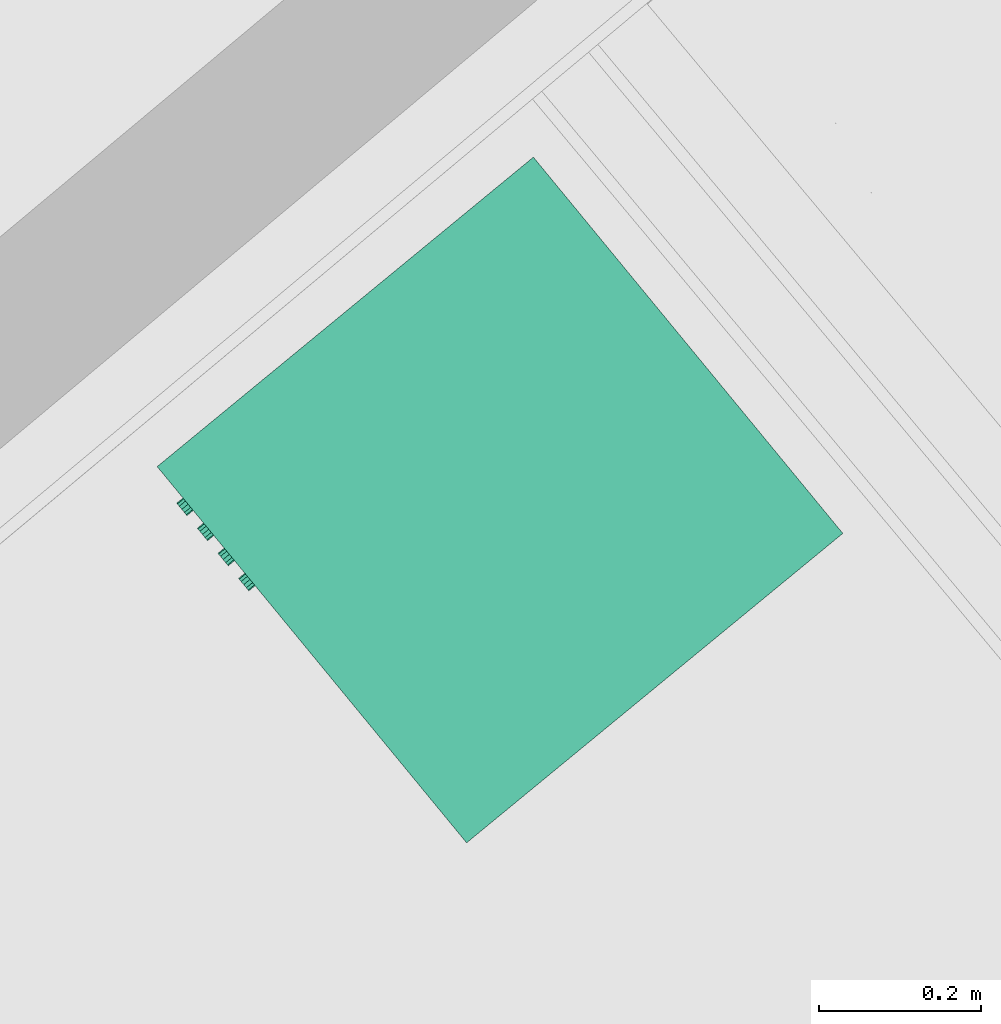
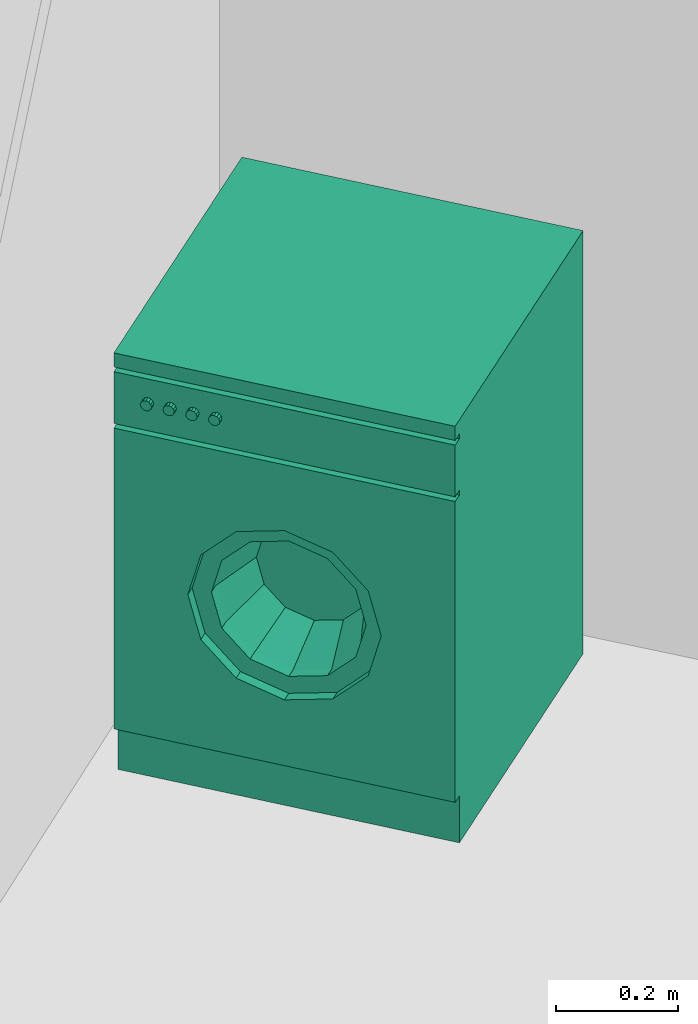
# One storey, part 67 of 75: 1 sanitary terminal.
"""IFC4 building model written with IfcOpenShell, lengths in metres."""

from ifc_helpers import new_model, entity, si_unit, converted_unit, derived_unit, direction, frame, origin_with_axes, place, context, subcontext, project, spatial, polygons, source, transform, mapped, type_object, element, save


model = new_model("IFC4")

# Units and contexts
model_context = context("Model", 3, precision=1e-05, world=origin_with_axes(), true_north=direction((0.0, 1.0)))
body_context = subcontext(model_context, "Body", "Model", "MODEL_VIEW")
ifc_project = project(units=[si_unit("LENGTHUNIT", "METRE"), si_unit("AREAUNIT", "SQUARE_METRE"), si_unit("VOLUMEUNIT", "CUBIC_METRE"), converted_unit("PLANEANGLEUNIT", "DEGREE", entity("IfcPlaneAngleMeasure", 0.0174532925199), si_unit("PLANEANGLEUNIT", "RADIAN"), dimensions=[0, 0, 0, 0, 0, 0, 0]), converted_unit("TIMEUNIT", "Year", entity("IfcTimeMeasure", 31556926.0), si_unit("TIMEUNIT", "SECOND"), dimensions=[0, 0, 1, 0, 0, 0, 0]), si_unit("MASSUNIT", "GRAM", prefix="KILO"), si_unit("THERMODYNAMICTEMPERATUREUNIT", "DEGREE_CELSIUS"), si_unit("LUMINOUSINTENSITYUNIT", "LUMEN"), si_unit("ENERGYUNIT", "JOULE", prefix="MEGA"), derived_unit("THERMALCONDUCTANCEUNIT", [(si_unit("POWERUNIT", "WATT"), 1), (si_unit("LENGTHUNIT", "METRE"), -1), (si_unit("THERMODYNAMICTEMPERATUREUNIT", "KELVIN"), -1)]), derived_unit("SPECIFICHEATCAPACITYUNIT", [(si_unit("ENERGYUNIT", "JOULE"), 1), (si_unit("MASSUNIT", "GRAM", prefix="KILO"), -1), (si_unit("THERMODYNAMICTEMPERATUREUNIT", "KELVIN"), -1)]), derived_unit("MASSDENSITYUNIT", [(si_unit("MASSUNIT", "GRAM", prefix="KILO"), 1), (si_unit("VOLUMEUNIT", "CUBIC_METRE"), -1)])], contexts=[model_context])

# Site, building, storey, space
site_placement = place(None, frame((-0.00153261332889, -0.00661245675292, 0.0), z_axis=(0.0, 0.0, 1.0), x_axis=(1.0, 0.0, 0.0)))
site = spatial("IfcSite", under=ifc_project, at=site_placement, Name="Gelände", CompositionType="ELEMENT")
building_placement = place(site_placement, origin_with_axes())
building = spatial("IfcBuilding", under=site, at=building_placement, Name="Gebäude", CompositionType="ELEMENT")
storey_placement = place(building_placement, frame((0.0, 0.0, -0.22), z_axis=(0.0, 0.0, 1.0), x_axis=(1.0, 0.0, 0.0)))
storey = spatial("IfcBuildingStorey", under=building, at=storey_placement, Name="EG", CompositionType="ELEMENT", Elevation=-0.22)
space_placement = place(storey_placement, frame((-2.15759184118, 20.2157118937, 0.22), z_axis=(0.0, 0.0, 1.0), x_axis=(-0.767062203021, -0.641572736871, 0.0)))
space = spatial("IfcSpace", under=storey, at=space_placement, CompositionType="ELEMENT", PredefinedType="NOTDEFINED")

# Sanitary terminal
sanitary_terminal_type = type_object("IfcSanitaryTerminalType", Name="Waschmaschine 01 26", PredefinedType="NOTDEFINED")
shared_shape = source(origin_with_axes(), body_context, "Body", "Tessellation", [
    polygons([(-0.3, -0.58, 0.0944444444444), (0.3, -0.58, 0.0944444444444), (0.3, -0.6, 0.0944444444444), (-0.3, -0.6, 0.0944444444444), (-0.3, -0.58, 0.698888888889), (0.3, -0.58, 0.698888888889), (0.17, -0.58, 0.396666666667), (0.147224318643, -0.58, 0.481666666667), (0.085, -0.58, 0.54389098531), (0.0, -0.58, 0.566666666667), (-0.085, -0.58, 0.54389098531), (-0.147224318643, -0.58, 0.481666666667), (-0.17, -0.58, 0.396666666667), (-0.147224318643, -0.58, 0.311666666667), (-0.085, -0.58, 0.249442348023), (0.0, -0.58, 0.226666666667), (0.085, -0.58, 0.249442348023), (0.147224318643, -0.58, 0.311666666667), (0.3, -0.6, 0.698888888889), (-0.3, -0.6, 0.698888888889), (0.17, -0.6, 0.396666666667), (0.147224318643, -0.6, 0.311666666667), (0.085, -0.6, 0.249442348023), (0.0, -0.6, 0.226666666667), (-0.085, -0.6, 0.249442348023), (-0.147224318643, -0.6, 0.311666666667), (-0.17, -0.6, 0.396666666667), (-0.147224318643, -0.6, 0.481666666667), (-0.085, -0.6, 0.54389098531), (0.0, -0.6, 0.566666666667), (0.085, -0.6, 0.54389098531), (0.147224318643, -0.6, 0.481666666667)], [[[1, 2, 3, 4]], [[1, 5, 6, 2], [7, 8, 9, 10, 11, 12, 13, 14, 15, 16, 17, 18]], [[2, 6, 19, 3]], [[4, 3, 19, 20], [21, 22, 23, 24, 25, 26, 27, 28, 29, 30, 31, 32]], [[5, 1, 4, 20]], [[6, 5, 20, 19]], [[8, 7, 21, 32]], [[9, 8, 32, 31]], [[10, 9, 31, 30]], [[11, 10, 30, 29]], [[12, 11, 29, 28]], [[13, 12, 28, 27]], [[14, 13, 27, 26]], [[15, 14, 26, 25]], [[16, 15, 25, 24]], [[17, 16, 24, 23]], [[18, 17, 23, 22]], [[7, 18, 22, 21]]], closed=True),
    polygons([(0.17, -0.56, 0.396666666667), (0.147224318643, -0.56, 0.481666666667), (0.147224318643, -0.58, 0.481666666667), (0.17, -0.58, 0.396666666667), (0.147224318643, -0.56, 0.311666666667), (0.085, -0.56, 0.249442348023), (0.0, -0.56, 0.226666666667), (-0.085, -0.56, 0.249442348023), (-0.147224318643, -0.56, 0.311666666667), (-0.17, -0.56, 0.396666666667), (-0.147224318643, -0.56, 0.481666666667), (-0.085, -0.56, 0.54389098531), (0.0, -0.56, 0.566666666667), (0.085, -0.56, 0.54389098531), (0.136, -0.56, 0.396666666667), (0.117779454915, -0.56, 0.464666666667), (0.068, -0.56, 0.514446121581), (0.0, -0.56, 0.532666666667), (-0.068, -0.56, 0.514446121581), (-0.117779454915, -0.56, 0.464666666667), (-0.136, -0.56, 0.396666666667), (-0.117779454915, -0.56, 0.328666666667), (-0.068, -0.56, 0.278887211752), (0.0, -0.56, 0.260666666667), (0.068, -0.56, 0.278887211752), (0.117779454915, -0.56, 0.328666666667), (0.085, -0.58, 0.54389098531), (0.0, -0.58, 0.566666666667), (-0.085, -0.58, 0.54389098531), (-0.147224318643, -0.58, 0.481666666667), (-0.17, -0.58, 0.396666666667), (-0.147224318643, -0.58, 0.311666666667), (-0.085, -0.58, 0.249442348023), (0.0, -0.58, 0.226666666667), (0.085, -0.58, 0.249442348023), (0.147224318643, -0.58, 0.311666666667), (0.136, -0.58, 0.396666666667), (0.117779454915, -0.58, 0.328666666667), (0.068, -0.58, 0.278887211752), (0.0, -0.58, 0.260666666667), (-0.068, -0.58, 0.278887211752), (-0.117779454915, -0.58, 0.328666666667), (-0.136, -0.58, 0.396666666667), (-0.117779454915, -0.58, 0.464666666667), (-0.068, -0.58, 0.514446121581), (0.0, -0.58, 0.532666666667), (0.068, -0.58, 0.514446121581), (0.117779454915, -0.58, 0.464666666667)], [[[1, 2, 3, 4]], [[1, 5, 6, 7, 8, 9, 10, 11, 12, 13, 14, 2], [15, 16, 17, 18, 19, 20, 21, 22, 23, 24, 25, 26]], [[2, 14, 27, 3]], [[4, 3, 27, 28, 29, 30, 31, 32, 33, 34, 35, 36], [37, 38, 39, 40, 41, 42, 43, 44, 45, 46, 47, 48]], [[5, 1, 4, 36]], [[6, 5, 36, 35]], [[7, 6, 35, 34]], [[8, 7, 34, 33]], [[9, 8, 33, 32]], [[10, 9, 32, 31]], [[11, 10, 31, 30]], [[12, 11, 30, 29]], [[13, 12, 29, 28]], [[14, 13, 28, 27]], [[16, 15, 37, 48]], [[17, 16, 48, 47]], [[18, 17, 47, 46]], [[19, 18, 46, 45]], [[20, 19, 45, 44]], [[21, 20, 44, 43]], [[22, 21, 43, 42]], [[23, 22, 42, 41]], [[24, 23, 41, 40]], [[25, 24, 40, 39]], [[26, 25, 39, 38]], [[15, 26, 38, 37]]], closed=True),
    polygons([(-0.068, -0.56, 0.514446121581), (0.0, -0.56, 0.532666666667), (0.0, -0.46, 0.498666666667), (-0.051, -0.46, 0.485001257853), (0.068, -0.56, 0.514446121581), (0.051, -0.46, 0.485001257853), (0.088334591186, -0.46, 0.447666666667), (0.102, -0.46, 0.396666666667), (0.088334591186, -0.46, 0.345666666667), (0.051, -0.46, 0.308332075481), (0.0, -0.46, 0.294666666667), (-0.051, -0.46, 0.308332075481), (-0.088334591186, -0.46, 0.345666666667), (-0.102, -0.46, 0.396666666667), (-0.088334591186, -0.46, 0.447666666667), (-0.117779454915, -0.56, 0.464666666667), (0.117779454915, -0.56, 0.464666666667), (0.136, -0.56, 0.396666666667), (0.117779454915, -0.56, 0.328666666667), (0.068, -0.56, 0.278887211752), (0.0, -0.56, 0.260666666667), (-0.068, -0.56, 0.278887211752), (-0.117779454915, -0.56, 0.328666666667), (-0.136, -0.56, 0.396666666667)], [[[1, 2, 3, 4]], [[2, 5, 6, 3]], [[3, 6, 7, 8, 9, 10, 11, 12, 13, 14, 15, 4]], [[16, 1, 4, 15]], [[5, 17, 7, 6]], [[17, 18, 8, 7]], [[18, 19, 9, 8]], [[19, 20, 10, 9]], [[20, 21, 11, 10]], [[21, 22, 12, 11]], [[22, 23, 13, 12]], [[23, 24, 14, 13]], [[24, 16, 15, 14]]], closed=False),
    polygons([(-0.3, -0.58, 0.0944444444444), (-0.3, -0.58, 0.821666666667), (-0.3, 0.0, 0.821666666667), (-0.3, 0.0, 0.0944444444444)], [[[1, 2, 3, 4]]], closed=False),
    polygons([(0.3, -0.58, 0.0944444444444), (0.3, -0.58, 0.821666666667), (0.3, 0.0, 0.821666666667), (0.3, 0.0, 0.0944444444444)], [[[1, 2, 3, 4]]], closed=False),
    polygons([(-0.3, 0.0, 0.0944444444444), (-0.3, 0.0, 0.821666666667), (0.3, 0.0, 0.821666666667), (0.3, 0.0, 0.0944444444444)], [[[1, 2, 3, 4]]], closed=False),
    polygons([(-0.3, -0.58, 0.0), (0.3, -0.58, 0.0), (0.3, -0.58, 0.0944444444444), (-0.3, -0.58, 0.0944444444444), (-0.3, 0.0, 0.0), (0.3, 0.0, 0.0), (0.3, 0.0, 0.0944444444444), (-0.3, 0.0, 0.0944444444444)], [[[1, 2, 3, 4]], [[1, 5, 6, 2]], [[2, 6, 7, 3]], [[4, 3, 7, 8]], [[5, 1, 4, 8]], [[6, 5, 8, 7]]], closed=True),
    polygons([(-0.3, -0.58, 0.708333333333), (0.3, -0.58, 0.708333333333), (0.3, -0.6, 0.708333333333), (-0.3, -0.6, 0.708333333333), (-0.3, -0.58, 0.812222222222), (0.3, -0.58, 0.812222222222), (0.3, -0.6, 0.812222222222), (-0.3, -0.6, 0.812222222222)], [[[1, 2, 3, 4]], [[1, 5, 6, 2]], [[2, 6, 7, 3]], [[4, 3, 7, 8]], [[5, 1, 4, 8]], [[6, 5, 8, 7]]], closed=True),
    polygons([(-0.3, -0.58, 0.698888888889), (-0.3, -0.58, 0.821666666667), (0.3, -0.58, 0.821666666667), (0.3, -0.58, 0.698888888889)], [[[1, 2, 3, 4]]], closed=False),
    polygons([(-0.3, -0.6, 0.821666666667), (0.3, -0.6, 0.821666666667), (0.3, -0.6, 0.85), (-0.3, -0.6, 0.85), (-0.3, 0.0, 0.821666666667), (0.3, 0.0, 0.821666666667), (0.3, 0.0, 0.85), (-0.3, 0.0, 0.85)], [[[1, 2, 3, 4]], [[1, 5, 6, 2]], [[2, 6, 7, 3]], [[4, 3, 7, 8]], [[5, 1, 4, 8]], [[6, 5, 8, 7]]], closed=True),
    polygons([(-0.231339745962, -0.6, 0.76), (-0.235, -0.6, 0.756339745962), (-0.24, -0.6, 0.755), (-0.245, -0.6, 0.756339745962), (-0.248660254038, -0.6, 0.76), (-0.25, -0.6, 0.765), (-0.248660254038, -0.6, 0.77), (-0.245, -0.6, 0.773660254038), (-0.24, -0.6, 0.775), (-0.235, -0.6, 0.773660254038), (-0.231339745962, -0.6, 0.77), (-0.23, -0.6, 0.765), (-0.231339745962, -0.61, 0.76), (-0.235, -0.61, 0.756339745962), (-0.24, -0.61, 0.755), (-0.245, -0.61, 0.756339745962), (-0.248660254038, -0.61, 0.76), (-0.25, -0.61, 0.765), (-0.248660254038, -0.61, 0.77), (-0.245, -0.61, 0.773660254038), (-0.24, -0.61, 0.775), (-0.235, -0.61, 0.773660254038), (-0.231339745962, -0.61, 0.77), (-0.23, -0.61, 0.765)], [[[1, 2, 3, 4, 5, 6, 7, 8, 9, 10, 11, 12]], [[2, 1, 13, 14]], [[3, 2, 14, 15]], [[4, 3, 15, 16]], [[5, 4, 16, 17]], [[6, 5, 17, 18]], [[7, 6, 18, 19]], [[8, 7, 19, 20]], [[9, 8, 20, 21]], [[10, 9, 21, 22]], [[11, 10, 22, 23]], [[12, 11, 23, 24]], [[1, 12, 24, 13]], [[13, 24, 23, 22, 21, 20, 19, 18, 17, 16, 15, 14]]], closed=True),
    polygons([(-0.191339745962, -0.6, 0.76), (-0.195, -0.6, 0.756339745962), (-0.2, -0.6, 0.755), (-0.205, -0.6, 0.756339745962), (-0.208660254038, -0.6, 0.76), (-0.21, -0.6, 0.765), (-0.208660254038, -0.6, 0.77), (-0.205, -0.6, 0.773660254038), (-0.2, -0.6, 0.775), (-0.195, -0.6, 0.773660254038), (-0.191339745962, -0.6, 0.77), (-0.19, -0.6, 0.765), (-0.191339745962, -0.61, 0.76), (-0.195, -0.61, 0.756339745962), (-0.2, -0.61, 0.755), (-0.205, -0.61, 0.756339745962), (-0.208660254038, -0.61, 0.76), (-0.21, -0.61, 0.765), (-0.208660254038, -0.61, 0.77), (-0.205, -0.61, 0.773660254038), (-0.2, -0.61, 0.775), (-0.195, -0.61, 0.773660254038), (-0.191339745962, -0.61, 0.77), (-0.19, -0.61, 0.765)], [[[1, 2, 3, 4, 5, 6, 7, 8, 9, 10, 11, 12]], [[2, 1, 13, 14]], [[3, 2, 14, 15]], [[4, 3, 15, 16]], [[5, 4, 16, 17]], [[6, 5, 17, 18]], [[7, 6, 18, 19]], [[8, 7, 19, 20]], [[9, 8, 20, 21]], [[10, 9, 21, 22]], [[11, 10, 22, 23]], [[12, 11, 23, 24]], [[1, 12, 24, 13]], [[13, 24, 23, 22, 21, 20, 19, 18, 17, 16, 15, 14]]], closed=True),
    polygons([(-0.151339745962, -0.6, 0.76), (-0.155, -0.6, 0.756339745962), (-0.16, -0.6, 0.755), (-0.165, -0.6, 0.756339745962), (-0.168660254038, -0.6, 0.76), (-0.17, -0.6, 0.765), (-0.168660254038, -0.6, 0.77), (-0.165, -0.6, 0.773660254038), (-0.16, -0.6, 0.775), (-0.155, -0.6, 0.773660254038), (-0.151339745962, -0.6, 0.77), (-0.15, -0.6, 0.765), (-0.151339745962, -0.61, 0.76), (-0.155, -0.61, 0.756339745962), (-0.16, -0.61, 0.755), (-0.165, -0.61, 0.756339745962), (-0.168660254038, -0.61, 0.76), (-0.17, -0.61, 0.765), (-0.168660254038, -0.61, 0.77), (-0.165, -0.61, 0.773660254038), (-0.16, -0.61, 0.775), (-0.155, -0.61, 0.773660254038), (-0.151339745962, -0.61, 0.77), (-0.15, -0.61, 0.765)], [[[1, 2, 3, 4, 5, 6, 7, 8, 9, 10, 11, 12]], [[2, 1, 13, 14]], [[3, 2, 14, 15]], [[4, 3, 15, 16]], [[5, 4, 16, 17]], [[6, 5, 17, 18]], [[7, 6, 18, 19]], [[8, 7, 19, 20]], [[9, 8, 20, 21]], [[10, 9, 21, 22]], [[11, 10, 22, 23]], [[12, 11, 23, 24]], [[1, 12, 24, 13]], [[13, 24, 23, 22, 21, 20, 19, 18, 17, 16, 15, 14]]], closed=True),
    polygons([(-0.111339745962, -0.6, 0.76), (-0.115, -0.6, 0.756339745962), (-0.12, -0.6, 0.755), (-0.125, -0.6, 0.756339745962), (-0.128660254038, -0.6, 0.76), (-0.13, -0.6, 0.765), (-0.128660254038, -0.6, 0.77), (-0.125, -0.6, 0.773660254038), (-0.12, -0.6, 0.775), (-0.115, -0.6, 0.773660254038), (-0.111339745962, -0.6, 0.77), (-0.11, -0.6, 0.765), (-0.111339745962, -0.61, 0.76), (-0.115, -0.61, 0.756339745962), (-0.12, -0.61, 0.755), (-0.125, -0.61, 0.756339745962), (-0.128660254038, -0.61, 0.76), (-0.13, -0.61, 0.765), (-0.128660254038, -0.61, 0.77), (-0.125, -0.61, 0.773660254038), (-0.12, -0.61, 0.775), (-0.115, -0.61, 0.773660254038), (-0.111339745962, -0.61, 0.77), (-0.11, -0.61, 0.765)], [[[1, 2, 3, 4, 5, 6, 7, 8, 9, 10, 11, 12]], [[2, 1, 13, 14]], [[3, 2, 14, 15]], [[4, 3, 15, 16]], [[5, 4, 16, 17]], [[6, 5, 17, 18]], [[7, 6, 18, 19]], [[8, 7, 19, 20]], [[9, 8, 20, 21]], [[10, 9, 21, 22]], [[11, 10, 22, 23]], [[12, 11, 23, 24]], [[1, 12, 24, 13]], [[13, 24, 23, 22, 21, 20, 19, 18, 17, 16, 15, 14]]], closed=True),
])
sanitary_terminal_placement = place(space_placement, frame((-1.23258057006, 0.356224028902, 0.0), z_axis=(0.0, 0.0, 1.0), x_axis=(0.00823819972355, 0.999966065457, 0.0)))
element("IfcSanitaryTerminal", 1, at=sanitary_terminal_placement, inside=space, type_object=sanitary_terminal_type, Name="Objekt-0002", PredefinedType="NOTDEFINED", context=body_context, shape_type="MappedRepresentation", body=[
    mapped(shared_shape, transform((0.0, 0.0, 0.0))),
])

save(model, "model.ifc")
